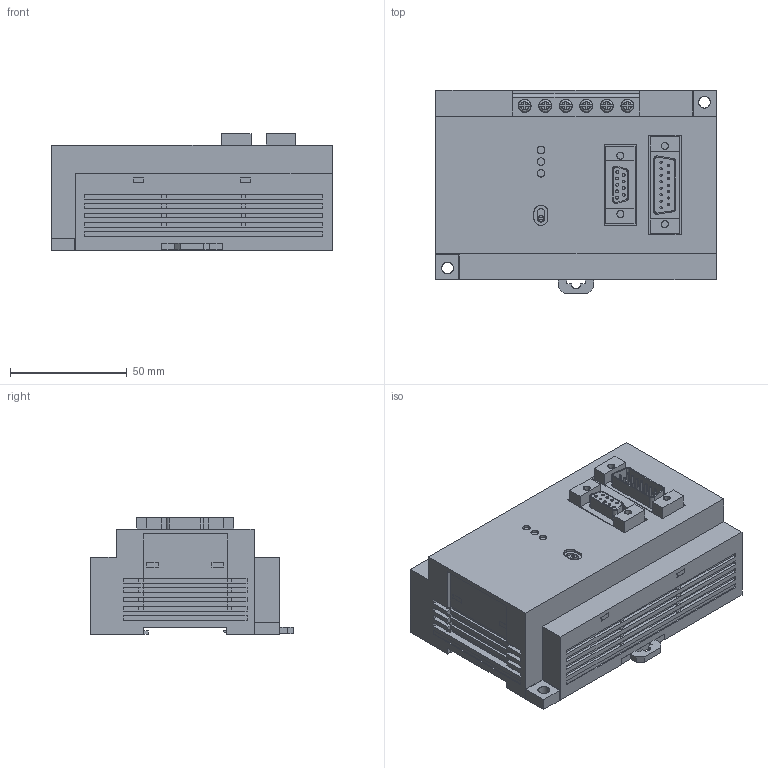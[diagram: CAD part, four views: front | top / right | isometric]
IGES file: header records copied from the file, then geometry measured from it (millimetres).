
Global section: organization: PanasonicElectricWorks; date: 080828.145525; units: millimetre
Bounding box: 120 x 86.9 x 50 mm (x, y, z)
Surface area: 47697.5 mm2 (no closed solid volume)
Topology: 0 solids, 0 shells, 831 faces, 6684 edges, 6654 vertices
Faces by surface type: bspline 663, revolution 168
